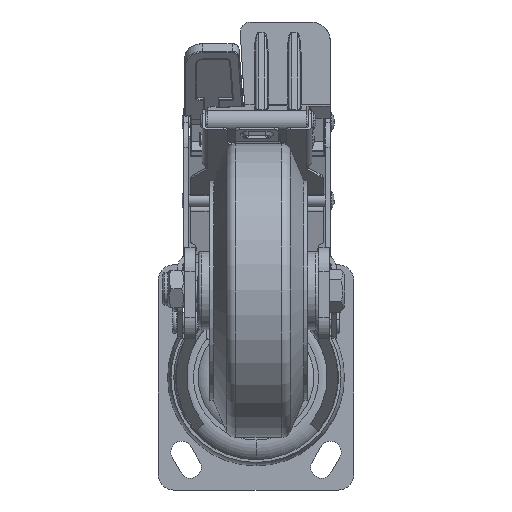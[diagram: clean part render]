
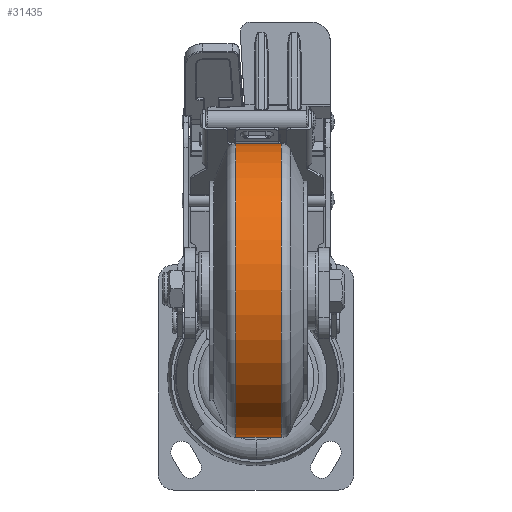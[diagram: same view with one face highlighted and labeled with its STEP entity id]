
A CAD part, front view. The second image highlights one B-rep face of the part: STEP entity #31435.
In plain terms, the highlighted cylindrical face has radius 75 mm (diameter 150 mm), a partial arc.
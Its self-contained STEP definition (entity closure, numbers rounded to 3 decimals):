
#3496 = DIRECTION ( 'NONE',  ( 0., -1., 0. ) ) ;
#3497 = VECTOR ( 'NONE', #3496, 1000. ) ;
#3499 = CARTESIAN_POINT ( 'NONE',  ( 0., 0., 75. ) ) ;
#3501 = LINE ( 'NONE', #3499, #3497 ) ;
#3507 = CARTESIAN_POINT ( 'NONE',  ( 0., 29.32, 75. ) ) ;
#3526 = CARTESIAN_POINT ( 'NONE',  ( 0., 29.32, -75. ) ) ;
#3562 = CARTESIAN_POINT ( 'NONE',  ( 0., 52.68, -75. ) ) ;
#3636 = CARTESIAN_POINT ( 'NONE',  ( 0., 52.68, 75. ) ) ;
#3655 = DIRECTION ( 'NONE',  ( 0., -1., 0. ) ) ;
#3656 = VECTOR ( 'NONE', #3655, 1000. ) ;
#3658 = CARTESIAN_POINT ( 'NONE',  ( 0., 0., -75. ) ) ;
#3660 = LINE ( 'NONE', #3658, #3656 ) ;
#5418 = CARTESIAN_POINT ( 'NONE',  ( 0., 52.68, 0. ) ) ;
#5419 = DIRECTION ( 'NONE',  ( 0., 0., -1. ) ) ;
#5420 = DIRECTION ( 'NONE',  ( 0., -1., 0. ) ) ;
#5422 = CARTESIAN_POINT ( 'NONE',  ( 0., 0., 0. ) ) ;
#5424 = AXIS2_PLACEMENT_3D ( 'NONE', #5422, #5420, #5419 ) ;
#5426 = CYLINDRICAL_SURFACE ( 'NONE', #5424, 75. ) ;
#5428 = FACE_OUTER_BOUND ( 'NONE', #31436, .T. ) ;
#5429 = DIRECTION ( 'NONE',  ( 0., 0., -1. ) ) ;
#5430 = DIRECTION ( 'NONE',  ( 0., -1., 0. ) ) ;
#5431 = CARTESIAN_POINT ( 'NONE',  ( 0., 29.32, 0. ) ) ;
#5432 = AXIS2_PLACEMENT_3D ( 'NONE', #5431, #5430, #5429 ) ;
#5441 = CIRCLE ( 'NONE', #5432, 75. ) ;
#5531 = DIRECTION ( 'NONE',  ( 0., 0., -1. ) ) ;
#5533 = DIRECTION ( 'NONE',  ( 0., -1., 0. ) ) ;
#5535 = AXIS2_PLACEMENT_3D ( 'NONE', #5418, #5533, #5531 ) ;
#5537 = CIRCLE ( 'NONE', #5535, 75. ) ;
#30899 = VERTEX_POINT ( 'NONE', #3526 ) ;
#30907 = VERTEX_POINT ( 'NONE', #3507 ) ;
#30909 = EDGE_CURVE ( 'NONE', #30936, #30907, #3501, .T. ) ;
#30924 = VERTEX_POINT ( 'NONE', #3562 ) ;
#30932 = EDGE_CURVE ( 'NONE', #30924, #30899, #3660, .T. ) ;
#30936 = VERTEX_POINT ( 'NONE', #3636 ) ;
#31432 = EDGE_CURVE ( 'NONE', #30907, #30899, #5441, .T. ) ;
#31435 = ADVANCED_FACE ( 'NONE', ( #5428 ), #5426, .T. ) ;
#31436 = EDGE_LOOP ( 'NONE', ( #31437, #31438, #31493, #31494 ) ) ;
#31437 = ORIENTED_EDGE ( 'NONE', *, *, #30909, .F. ) ;
#31438 = ORIENTED_EDGE ( 'NONE', *, *, #31439, .T. ) ;
#31439 = EDGE_CURVE ( 'NONE', #30936, #30924, #5537, .T. ) ;
#31493 = ORIENTED_EDGE ( 'NONE', *, *, #30932, .T. ) ;
#31494 = ORIENTED_EDGE ( 'NONE', *, *, #31432, .F. ) ;
